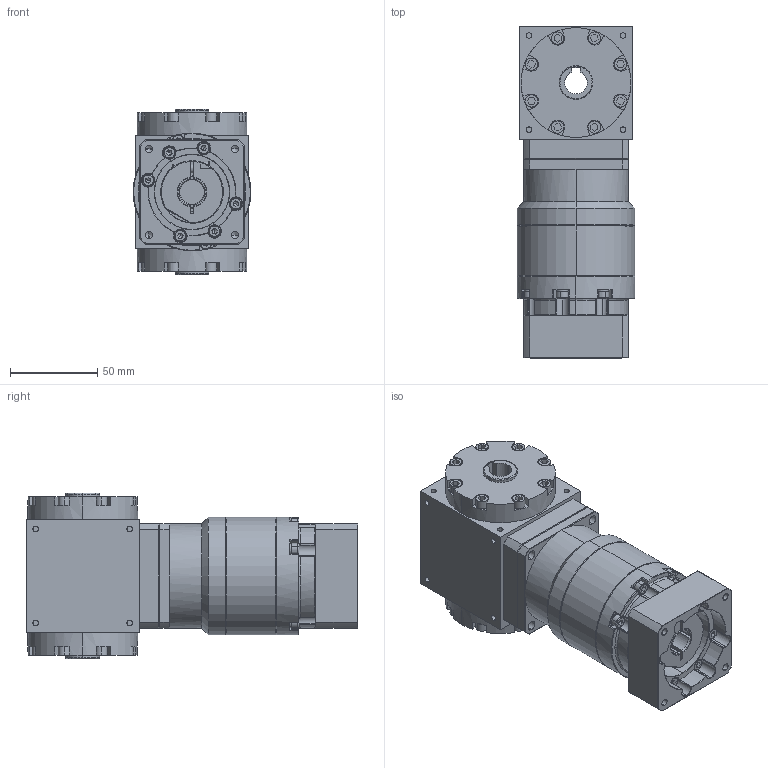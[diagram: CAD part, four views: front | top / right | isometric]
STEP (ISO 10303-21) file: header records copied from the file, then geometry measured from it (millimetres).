
FILE_DESCRIPTION (( 'STEP AP203' ), '1' );
FILE_NAME ('AT065-FH-L2 14-50-70-M5.STEP', '2024-12-18T07:14:09', ( '' ), ( '' ), 'SwSTEP 2.0', 'SolidWorks 2021', '' );
FILE_SCHEMA (( 'CONFIG_CONTROL_DESIGN' ));
Length unit declared in the file: millimetre
Products named in the file (3): AT065-FH-L2 14-50-70-M5; VRB-060-L2-S2-P1 14-50-70-M5; AT065-FH
Assembly tree (2 placements, depth 2):
  AT065-FH-L2 14-50-70-M5
    AT065-FH
    VRB-060-L2-S2-P1 14-50-70-M5
Bounding box: 67.5 x 190.5 x 95 mm (x, y, z)
Volume: 664836 mm3; surface area: 123931.6 mm2
Topology: 34 solids, 34 shells, 1496 faces, 3747 edges, 2358 vertices
Faces by surface type: plane 635, cylinder 567, cone 224, torus 54, bspline 16
Entity records: 45554 total; most frequent: CARTESIAN_POINT 9443, DIRECTION 7772, ORIENTED_EDGE 7378, EDGE_CURVE 3689, AXIS2_PLACEMENT_3D 2992, VERTEX_POINT 2358, LINE 1788, VECTOR 1788
